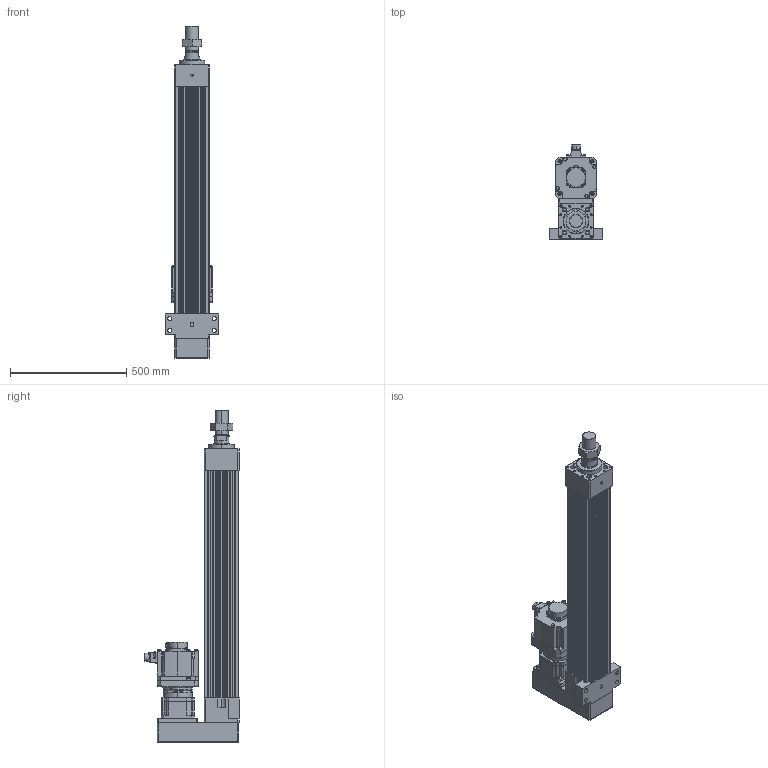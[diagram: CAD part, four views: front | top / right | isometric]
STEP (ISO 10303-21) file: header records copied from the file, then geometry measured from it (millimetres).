
FILE_DESCRIPTION (( 'STEP AP203' ), '1' );
FILE_NAME ('HES150NS(HS)-P700-W035G00-M-FFC.STEP', '2023-01-31T09:58:37', ( 'tms' ), ( '' ), 'SwSTEP 2.0', 'SolidWorks 2013', '' );
FILE_SCHEMA (( 'CONFIG_CONTROL_DESIGN' ));
Length unit declared in the file: millimetre
Products named in the file (9): HES150-P700-G142-FFC; HES150NS(HS)-P700-W035G00-M-FFC; M56X2.0P; HES150 ROD M ST700; P0403500801; AB1421; P1301500001; AB142-003[HG-SR352]; HG-SR352
Assembly tree (8 placements, depth 3):
  HES150NS(HS)-P700-W035G00-M-FFC
    HES150-P700-G142-FFC
    HES150 ROD M ST700
    M56X2.0P
    AB142-003[HG-SR352]
      AB1421
      P1301500001
      P0403500801
    HG-SR352
Bounding box: 230 x 403.85 x 1426 mm (x, y, z)
Volume: 22440249.2 mm3; surface area: 2311262.3 mm2
Topology: 4 solids, 18 shells, 1470 faces, 3831 edges, 2471 vertices
Faces by surface type: cylinder 693, plane 529, cone 166, bspline 76, torus 6
Entity records: 53945 total; most frequent: CARTESIAN_POINT 16549, DIRECTION 7839, ORIENTED_EDGE 7520, EDGE_CURVE 3782, AXIS2_PLACEMENT_3D 2986, VERTEX_POINT 2471, LINE 1867, VECTOR 1867
